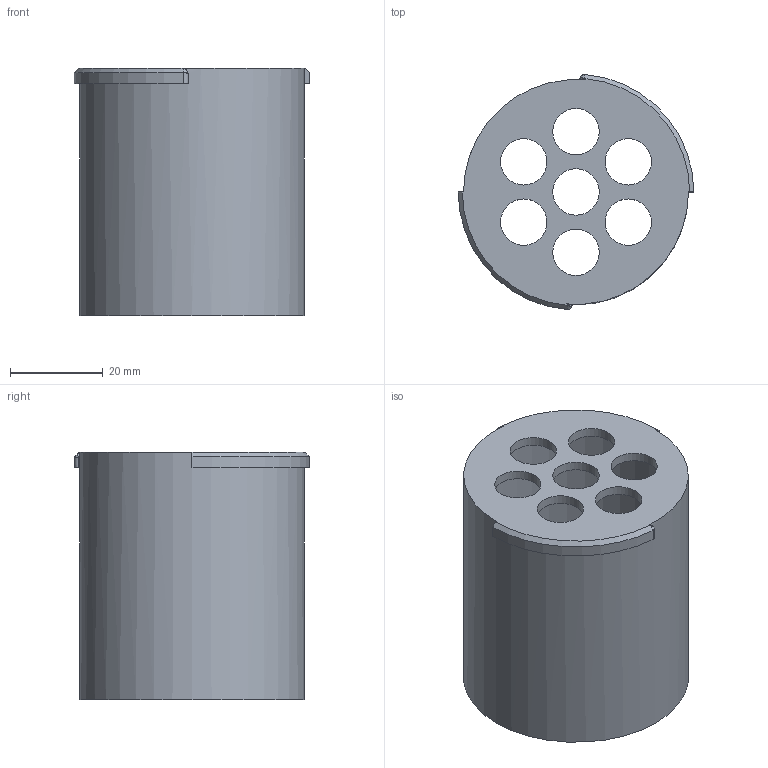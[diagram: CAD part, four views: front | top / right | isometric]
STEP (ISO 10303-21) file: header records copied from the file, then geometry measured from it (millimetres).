
FILE_DESCRIPTION(/* description */ (''),/* implementation_level */ '2;1');
FILE_NAME(/* name */ 'SBOOX_Druckbox_Achse.step',/* time_stamp */ '2025-09-07T12:44:39+02:00',/* author */ (''),/* organization */ (''),/* preprocessor_version */ 'ST-DEVELOPER v20.1',/* originating_system */ 'Autodesk Translation Framework v14.10.0.0',/* authorisation */ '');
FILE_SCHEMA (('AUTOMOTIVE_DESIGN { 1 0 10303 214 3 1 1 }'));
Length unit declared in the file: millimetre
Products named in the file (1): Rotella_V2
Bounding box: 50.8 x 50.67 x 53.3 mm (x, y, z)
Volume: 17840.3 mm3; surface area: 18483.9 mm2
Topology: 1 solids, 1 shells, 28 faces, 74 edges, 49 vertices
Faces by surface type: cylinder 15, plane 9, bspline 2, cone 2
Full cylindrical faces by diameter (mm): 10 x7, 44.5 x1, 48.5 x1
Entity records: 1120 total; most frequent: CARTESIAN_POINT 366, ORIENTED_EDGE 148, DIRECTION 143, EDGE_CURVE 74, AXIS2_PLACEMENT_3D 56, VERTEX_POINT 49, EDGE_LOOP 43, LINE 31
